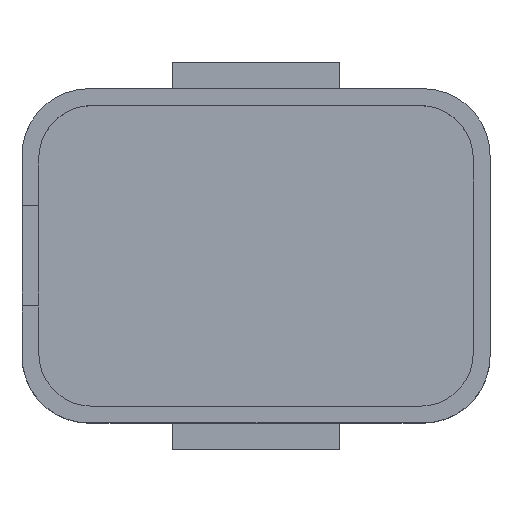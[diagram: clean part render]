
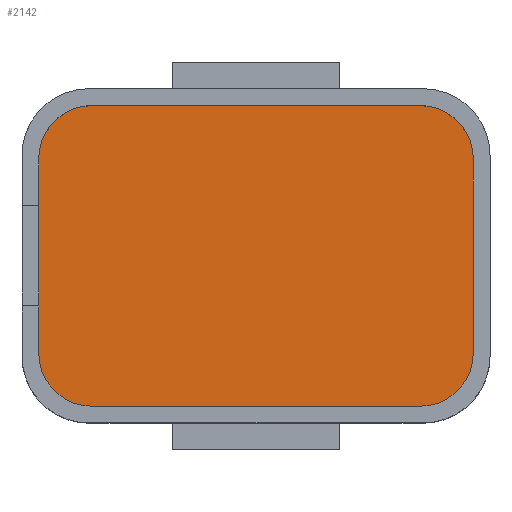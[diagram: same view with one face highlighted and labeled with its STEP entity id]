
A CAD part, top view. The second image highlights one B-rep face of the part: STEP entity #2142.
In plain terms, the highlighted planar face has unit normal (0, 0, 1).
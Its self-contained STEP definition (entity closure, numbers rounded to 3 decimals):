
#481 = PLANE('',#482);
#482 = AXIS2_PLACEMENT_3D('',#483,#484,#485);
#483 = CARTESIAN_POINT('',(-13.,-9.,1.4));
#484 = DIRECTION('',(1.,0.,0.));
#485 = DIRECTION('',(0.,0.,1.));
#509 = CYLINDRICAL_SURFACE('',#510,3.2);
#510 = AXIS2_PLACEMENT_3D('',#511,#512,#513);
#511 = CARTESIAN_POINT('',(-9.8,5.8,1.4));
#512 = DIRECTION('',(0.,0.,1.));
#513 = DIRECTION('',(-1.,-0.,0.));
#536 = PLANE('',#537);
#537 = AXIS2_PLACEMENT_3D('',#538,#539,#540);
#538 = CARTESIAN_POINT('',(-13.,9.,1.4));
#539 = DIRECTION('',(0.,1.,0.));
#540 = DIRECTION('',(0.,0.,1.));
#564 = CYLINDRICAL_SURFACE('',#565,3.2);
#565 = AXIS2_PLACEMENT_3D('',#566,#567,#568);
#566 = CARTESIAN_POINT('',(9.8,5.8,1.4));
#567 = DIRECTION('',(0.,0.,1.));
#568 = DIRECTION('',(1.,0.,-0.));
#591 = PLANE('',#592);
#592 = AXIS2_PLACEMENT_3D('',#593,#594,#595);
#593 = CARTESIAN_POINT('',(13.,-9.,1.4));
#594 = DIRECTION('',(1.,0.,0.));
#595 = DIRECTION('',(0.,0.,1.));
#619 = CYLINDRICAL_SURFACE('',#620,3.2);
#620 = AXIS2_PLACEMENT_3D('',#621,#622,#623);
#621 = CARTESIAN_POINT('',(9.8,-5.8,1.4));
#622 = DIRECTION('',(0.,0.,1.));
#623 = DIRECTION('',(1.,0.,-0.));
#646 = PLANE('',#647);
#647 = AXIS2_PLACEMENT_3D('',#648,#649,#650);
#648 = CARTESIAN_POINT('',(-13.,-9.,1.4));
#649 = DIRECTION('',(0.,1.,0.));
#650 = DIRECTION('',(0.,0.,1.));
#674 = CYLINDRICAL_SURFACE('',#675,3.2);
#675 = AXIS2_PLACEMENT_3D('',#676,#677,#678);
#676 = CARTESIAN_POINT('',(-9.8,-5.8,1.4));
#677 = DIRECTION('',(0.,0.,1.));
#678 = DIRECTION('',(-1.,-0.,0.));
#1166 = VERTEX_POINT('',#1167);
#1167 = CARTESIAN_POINT('',(-13.,-5.8,1.4));
#1188 = EDGE_CURVE('',#1166,#1189,#1191,.T.);
#1189 = VERTEX_POINT('',#1190);
#1190 = CARTESIAN_POINT('',(-13.,5.8,1.4));
#1191 = SURFACE_CURVE('',#1192,(#1196,#1203),.PCURVE_S1.);
#1192 = LINE('',#1193,#1194);
#1193 = CARTESIAN_POINT('',(-13.,-9.,1.4));
#1194 = VECTOR('',#1195,1.);
#1195 = DIRECTION('',(0.,1.,0.));
#1196 = PCURVE('',#481,#1197);
#1197 = DEFINITIONAL_REPRESENTATION('',(#1198),#1202);
#1198 = LINE('',#1199,#1200);
#1199 = CARTESIAN_POINT('',(0.,0.));
#1200 = VECTOR('',#1201,1.);
#1201 = DIRECTION('',(0.,-1.));
#1202 = ( GEOMETRIC_REPRESENTATION_CONTEXT(2) 
PARAMETRIC_REPRESENTATION_CONTEXT() REPRESENTATION_CONTEXT('2D SPACE',''
  ) );
#1203 = PCURVE('',#1204,#1209);
#1204 = PLANE('',#1205);
#1205 = AXIS2_PLACEMENT_3D('',#1206,#1207,#1208);
#1206 = CARTESIAN_POINT('',(-13.,-9.,1.4));
#1207 = DIRECTION('',(0.,0.,1.));
#1208 = DIRECTION('',(1.,0.,0.));
#1209 = DEFINITIONAL_REPRESENTATION('',(#1210),#1214);
#1210 = LINE('',#1211,#1212);
#1211 = CARTESIAN_POINT('',(0.,0.));
#1212 = VECTOR('',#1213,1.);
#1213 = DIRECTION('',(0.,1.));
#1214 = ( GEOMETRIC_REPRESENTATION_CONTEXT(2) 
PARAMETRIC_REPRESENTATION_CONTEXT() REPRESENTATION_CONTEXT('2D SPACE',''
  ) );
#1245 = EDGE_CURVE('',#1166,#1246,#1248,.T.);
#1246 = VERTEX_POINT('',#1247);
#1247 = CARTESIAN_POINT('',(-9.8,-9.,1.4));
#1248 = SURFACE_CURVE('',#1249,(#1254,#1261),.PCURVE_S1.);
#1249 = CIRCLE('',#1250,3.2);
#1250 = AXIS2_PLACEMENT_3D('',#1251,#1252,#1253);
#1251 = CARTESIAN_POINT('',(-9.8,-5.8,1.4));
#1252 = DIRECTION('',(0.,0.,1.));
#1253 = DIRECTION('',(0.,-1.,0.));
#1254 = PCURVE('',#674,#1255);
#1255 = DEFINITIONAL_REPRESENTATION('',(#1256),#1260);
#1256 = LINE('',#1257,#1258);
#1257 = CARTESIAN_POINT('',(-4.712,0.));
#1258 = VECTOR('',#1259,1.);
#1259 = DIRECTION('',(1.,0.));
#1260 = ( GEOMETRIC_REPRESENTATION_CONTEXT(2) 
PARAMETRIC_REPRESENTATION_CONTEXT() REPRESENTATION_CONTEXT('2D SPACE',''
  ) );
#1261 = PCURVE('',#1204,#1262);
#1262 = DEFINITIONAL_REPRESENTATION('',(#1263),#1267);
#1263 = CIRCLE('',#1264,3.2);
#1264 = AXIS2_PLACEMENT_2D('',#1265,#1266);
#1265 = CARTESIAN_POINT('',(3.2,3.2));
#1266 = DIRECTION('',(0.,-1.));
#1267 = ( GEOMETRIC_REPRESENTATION_CONTEXT(2) 
PARAMETRIC_REPRESENTATION_CONTEXT() REPRESENTATION_CONTEXT('2D SPACE',''
  ) );
#1294 = EDGE_CURVE('',#1246,#1295,#1297,.T.);
#1295 = VERTEX_POINT('',#1296);
#1296 = CARTESIAN_POINT('',(9.8,-9.,1.4));
#1297 = SURFACE_CURVE('',#1298,(#1302,#1309),.PCURVE_S1.);
#1298 = LINE('',#1299,#1300);
#1299 = CARTESIAN_POINT('',(-13.,-9.,1.4));
#1300 = VECTOR('',#1301,1.);
#1301 = DIRECTION('',(1.,0.,0.));
#1302 = PCURVE('',#646,#1303);
#1303 = DEFINITIONAL_REPRESENTATION('',(#1304),#1308);
#1304 = LINE('',#1305,#1306);
#1305 = CARTESIAN_POINT('',(0.,0.));
#1306 = VECTOR('',#1307,1.);
#1307 = DIRECTION('',(0.,1.));
#1308 = ( GEOMETRIC_REPRESENTATION_CONTEXT(2) 
PARAMETRIC_REPRESENTATION_CONTEXT() REPRESENTATION_CONTEXT('2D SPACE',''
  ) );
#1309 = PCURVE('',#1204,#1310);
#1310 = DEFINITIONAL_REPRESENTATION('',(#1311),#1315);
#1311 = LINE('',#1312,#1313);
#1312 = CARTESIAN_POINT('',(0.,0.));
#1313 = VECTOR('',#1314,1.);
#1314 = DIRECTION('',(1.,0.));
#1315 = ( GEOMETRIC_REPRESENTATION_CONTEXT(2) 
PARAMETRIC_REPRESENTATION_CONTEXT() REPRESENTATION_CONTEXT('2D SPACE',''
  ) );
#1344 = VERTEX_POINT('',#1345);
#1345 = CARTESIAN_POINT('',(13.,-5.8,1.4));
#1366 = EDGE_CURVE('',#1344,#1295,#1367,.T.);
#1367 = SURFACE_CURVE('',#1368,(#1373,#1380),.PCURVE_S1.);
#1368 = CIRCLE('',#1369,3.2);
#1369 = AXIS2_PLACEMENT_3D('',#1370,#1371,#1372);
#1370 = CARTESIAN_POINT('',(9.8,-5.8,1.4));
#1371 = DIRECTION('',(-0.,-0.,-1.));
#1372 = DIRECTION('',(0.,-1.,0.));
#1373 = PCURVE('',#619,#1374);
#1374 = DEFINITIONAL_REPRESENTATION('',(#1375),#1379);
#1375 = LINE('',#1376,#1377);
#1376 = CARTESIAN_POINT('',(4.712,-0.));
#1377 = VECTOR('',#1378,1.);
#1378 = DIRECTION('',(-1.,0.));
#1379 = ( GEOMETRIC_REPRESENTATION_CONTEXT(2) 
PARAMETRIC_REPRESENTATION_CONTEXT() REPRESENTATION_CONTEXT('2D SPACE',''
  ) );
#1380 = PCURVE('',#1204,#1381);
#1381 = DEFINITIONAL_REPRESENTATION('',(#1382),#1390);
#1382 = ( BOUNDED_CURVE() B_SPLINE_CURVE(2,(#1383,#1384,#1385,#1386,
#1387,#1388,#1389),.UNSPECIFIED.,.T.,.F.) B_SPLINE_CURVE_WITH_KNOTS((1,2
    ,2,2,2,1),(-2.094,0.,2.094,4.189,
6.283,8.378),.UNSPECIFIED.) CURVE() 
GEOMETRIC_REPRESENTATION_ITEM() RATIONAL_B_SPLINE_CURVE((1.,0.5,1.,0.5,
1.,0.5,1.)) REPRESENTATION_ITEM('') );
#1383 = CARTESIAN_POINT('',(22.8,0.));
#1384 = CARTESIAN_POINT('',(17.257,0.));
#1385 = CARTESIAN_POINT('',(20.029,4.8));
#1386 = CARTESIAN_POINT('',(22.8,9.6));
#1387 = CARTESIAN_POINT('',(25.571,4.8));
#1388 = CARTESIAN_POINT('',(28.343,0.));
#1389 = CARTESIAN_POINT('',(22.8,0.));
#1390 = ( GEOMETRIC_REPRESENTATION_CONTEXT(2) 
PARAMETRIC_REPRESENTATION_CONTEXT() REPRESENTATION_CONTEXT('2D SPACE',''
  ) );
#1399 = EDGE_CURVE('',#1344,#1400,#1402,.T.);
#1400 = VERTEX_POINT('',#1401);
#1401 = CARTESIAN_POINT('',(13.,5.8,1.4));
#1402 = SURFACE_CURVE('',#1403,(#1407,#1414),.PCURVE_S1.);
#1403 = LINE('',#1404,#1405);
#1404 = CARTESIAN_POINT('',(13.,-9.,1.4));
#1405 = VECTOR('',#1406,1.);
#1406 = DIRECTION('',(0.,1.,0.));
#1407 = PCURVE('',#591,#1408);
#1408 = DEFINITIONAL_REPRESENTATION('',(#1409),#1413);
#1409 = LINE('',#1410,#1411);
#1410 = CARTESIAN_POINT('',(0.,0.));
#1411 = VECTOR('',#1412,1.);
#1412 = DIRECTION('',(0.,-1.));
#1413 = ( GEOMETRIC_REPRESENTATION_CONTEXT(2) 
PARAMETRIC_REPRESENTATION_CONTEXT() REPRESENTATION_CONTEXT('2D SPACE',''
  ) );
#1414 = PCURVE('',#1204,#1415);
#1415 = DEFINITIONAL_REPRESENTATION('',(#1416),#1420);
#1416 = LINE('',#1417,#1418);
#1417 = CARTESIAN_POINT('',(26.,0.));
#1418 = VECTOR('',#1419,1.);
#1419 = DIRECTION('',(0.,1.));
#1420 = ( GEOMETRIC_REPRESENTATION_CONTEXT(2) 
PARAMETRIC_REPRESENTATION_CONTEXT() REPRESENTATION_CONTEXT('2D SPACE',''
  ) );
#1447 = EDGE_CURVE('',#1400,#1448,#1450,.T.);
#1448 = VERTEX_POINT('',#1449);
#1449 = CARTESIAN_POINT('',(9.8,9.,1.4));
#1450 = SURFACE_CURVE('',#1451,(#1456,#1463),.PCURVE_S1.);
#1451 = CIRCLE('',#1452,3.2);
#1452 = AXIS2_PLACEMENT_3D('',#1453,#1454,#1455);
#1453 = CARTESIAN_POINT('',(9.8,5.8,1.4));
#1454 = DIRECTION('',(0.,0.,1.));
#1455 = DIRECTION('',(0.,-1.,0.));
#1456 = PCURVE('',#564,#1457);
#1457 = DEFINITIONAL_REPRESENTATION('',(#1458),#1462);
#1458 = LINE('',#1459,#1460);
#1459 = CARTESIAN_POINT('',(-1.571,0.));
#1460 = VECTOR('',#1461,1.);
#1461 = DIRECTION('',(1.,0.));
#1462 = ( GEOMETRIC_REPRESENTATION_CONTEXT(2) 
PARAMETRIC_REPRESENTATION_CONTEXT() REPRESENTATION_CONTEXT('2D SPACE',''
  ) );
#1463 = PCURVE('',#1204,#1464);
#1464 = DEFINITIONAL_REPRESENTATION('',(#1465),#1469);
#1465 = CIRCLE('',#1466,3.2);
#1466 = AXIS2_PLACEMENT_2D('',#1467,#1468);
#1467 = CARTESIAN_POINT('',(22.8,14.8));
#1468 = DIRECTION('',(0.,-1.));
#1469 = ( GEOMETRIC_REPRESENTATION_CONTEXT(2) 
PARAMETRIC_REPRESENTATION_CONTEXT() REPRESENTATION_CONTEXT('2D SPACE',''
  ) );
#1496 = EDGE_CURVE('',#1497,#1448,#1499,.T.);
#1497 = VERTEX_POINT('',#1498);
#1498 = CARTESIAN_POINT('',(-9.8,9.,1.4));
#1499 = SURFACE_CURVE('',#1500,(#1504,#1511),.PCURVE_S1.);
#1500 = LINE('',#1501,#1502);
#1501 = CARTESIAN_POINT('',(-13.,9.,1.4));
#1502 = VECTOR('',#1503,1.);
#1503 = DIRECTION('',(1.,0.,0.));
#1504 = PCURVE('',#536,#1505);
#1505 = DEFINITIONAL_REPRESENTATION('',(#1506),#1510);
#1506 = LINE('',#1507,#1508);
#1507 = CARTESIAN_POINT('',(0.,0.));
#1508 = VECTOR('',#1509,1.);
#1509 = DIRECTION('',(0.,1.));
#1510 = ( GEOMETRIC_REPRESENTATION_CONTEXT(2) 
PARAMETRIC_REPRESENTATION_CONTEXT() REPRESENTATION_CONTEXT('2D SPACE',''
  ) );
#1511 = PCURVE('',#1204,#1512);
#1512 = DEFINITIONAL_REPRESENTATION('',(#1513),#1517);
#1513 = LINE('',#1514,#1515);
#1514 = CARTESIAN_POINT('',(0.,18.));
#1515 = VECTOR('',#1516,1.);
#1516 = DIRECTION('',(1.,0.));
#1517 = ( GEOMETRIC_REPRESENTATION_CONTEXT(2) 
PARAMETRIC_REPRESENTATION_CONTEXT() REPRESENTATION_CONTEXT('2D SPACE',''
  ) );
#1546 = EDGE_CURVE('',#1189,#1497,#1547,.T.);
#1547 = SURFACE_CURVE('',#1548,(#1553,#1560),.PCURVE_S1.);
#1548 = CIRCLE('',#1549,3.2);
#1549 = AXIS2_PLACEMENT_3D('',#1550,#1551,#1552);
#1550 = CARTESIAN_POINT('',(-9.8,5.8,1.4));
#1551 = DIRECTION('',(-0.,-0.,-1.));
#1552 = DIRECTION('',(0.,-1.,0.));
#1553 = PCURVE('',#509,#1554);
#1554 = DEFINITIONAL_REPRESENTATION('',(#1555),#1559);
#1555 = LINE('',#1556,#1557);
#1556 = CARTESIAN_POINT('',(1.571,-0.));
#1557 = VECTOR('',#1558,1.);
#1558 = DIRECTION('',(-1.,0.));
#1559 = ( GEOMETRIC_REPRESENTATION_CONTEXT(2) 
PARAMETRIC_REPRESENTATION_CONTEXT() REPRESENTATION_CONTEXT('2D SPACE',''
  ) );
#1560 = PCURVE('',#1204,#1561);
#1561 = DEFINITIONAL_REPRESENTATION('',(#1562),#1570);
#1562 = ( BOUNDED_CURVE() B_SPLINE_CURVE(2,(#1563,#1564,#1565,#1566,
#1567,#1568,#1569),.UNSPECIFIED.,.T.,.F.) B_SPLINE_CURVE_WITH_KNOTS((1,2
    ,2,2,2,1),(-2.094,0.,2.094,4.189,
6.283,8.378),.UNSPECIFIED.) CURVE() 
GEOMETRIC_REPRESENTATION_ITEM() RATIONAL_B_SPLINE_CURVE((1.,0.5,1.,0.5,
1.,0.5,1.)) REPRESENTATION_ITEM('') );
#1563 = CARTESIAN_POINT('',(3.2,11.6));
#1564 = CARTESIAN_POINT('',(-2.343,11.6));
#1565 = CARTESIAN_POINT('',(0.429,16.4));
#1566 = CARTESIAN_POINT('',(3.2,21.2));
#1567 = CARTESIAN_POINT('',(5.971,16.4));
#1568 = CARTESIAN_POINT('',(8.743,11.6));
#1569 = CARTESIAN_POINT('',(3.2,11.6));
#1570 = ( GEOMETRIC_REPRESENTATION_CONTEXT(2) 
PARAMETRIC_REPRESENTATION_CONTEXT() REPRESENTATION_CONTEXT('2D SPACE',''
  ) );
#2142 = ADVANCED_FACE('',(#2143),#1204,.T.);
#2143 = FACE_BOUND('',#2144,.T.);
#2144 = EDGE_LOOP('',(#2145,#2146,#2147,#2148,#2149,#2150,#2151,#2152));
#2145 = ORIENTED_EDGE('',*,*,#1188,.F.);
#2146 = ORIENTED_EDGE('',*,*,#1245,.T.);
#2147 = ORIENTED_EDGE('',*,*,#1294,.T.);
#2148 = ORIENTED_EDGE('',*,*,#1366,.F.);
#2149 = ORIENTED_EDGE('',*,*,#1399,.T.);
#2150 = ORIENTED_EDGE('',*,*,#1447,.T.);
#2151 = ORIENTED_EDGE('',*,*,#1496,.F.);
#2152 = ORIENTED_EDGE('',*,*,#1546,.F.);
